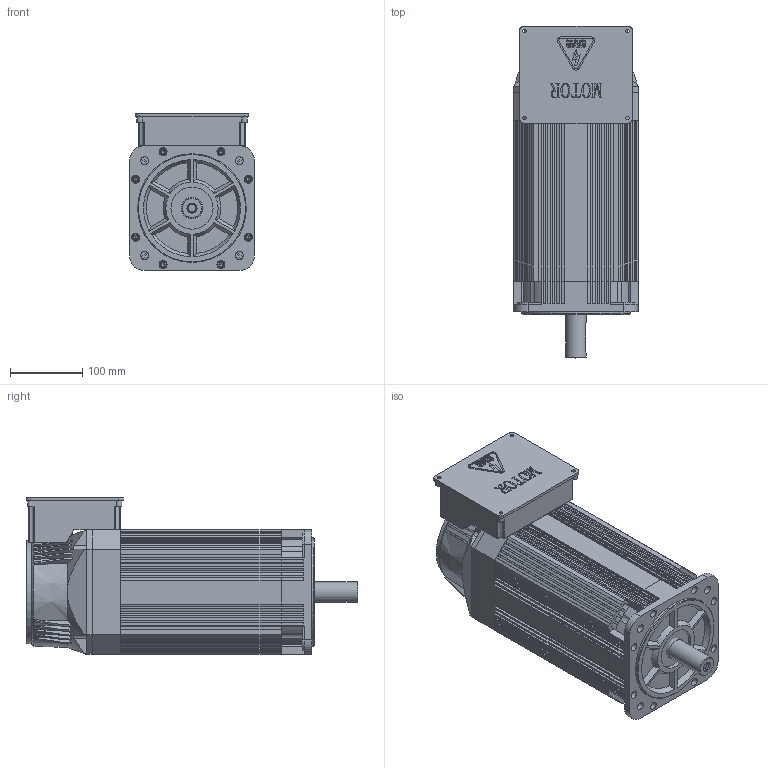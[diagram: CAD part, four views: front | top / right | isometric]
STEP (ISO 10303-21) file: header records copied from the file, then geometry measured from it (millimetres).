
FILE_DESCRIPTION(/* description */ (''),/* implementation_level */ '2;1');
FILE_NAME(/* name */ '172ZJY-4-5.5-15-A(法兰安装).stp',/* time_stamp */ '2024-11-15T13:16:49+08:00',/* author */ (''),/* organization */ (''),/* preprocessor_version */ 'ST-DEVELOPER v18.1',/* originating_system */ 'SIEMENS PLM Software NX 2000',/* authorisation */ '');
FILE_SCHEMA (('AUTOMOTIVE_DESIGN { 1 0 10303 214 3 1 1 1 }'));
Products named in the file (1): 172ZJY-4-5.5-15_法兰安装__stp
Bounding box: 172 x 458 x 216.5 mm (x, y, z)
Volume: 9043123.2 mm3; surface area: 902128.8 mm2
Topology: 15 solids, 15 shells, 2287 faces, 6264 edges, 4123 vertices
Faces by surface type: plane 1338, cylinder 654, extrusion 170, cone 108, torus 17
Full cylindrical faces by diameter (mm): 4.5 x4, 5 x8, 5.3 x8, 5.795 x8, 6 x4, 7 x8, 8 x4, 10 x9, 11 x12, 12 x2, 26 x1, 28 x1, 30 x1, 58 x1, 137 x1, 150 x1
Entity records: 76091 total; most frequent: CARTESIAN_POINT 21908, ORIENTED_EDGE 12192, DIRECTION 9275, EDGE_CURVE 6096, VERTEX_POINT 4078, AXIS2_PLACEMENT_3D 3096, VECTOR 3083, LINE 2913
